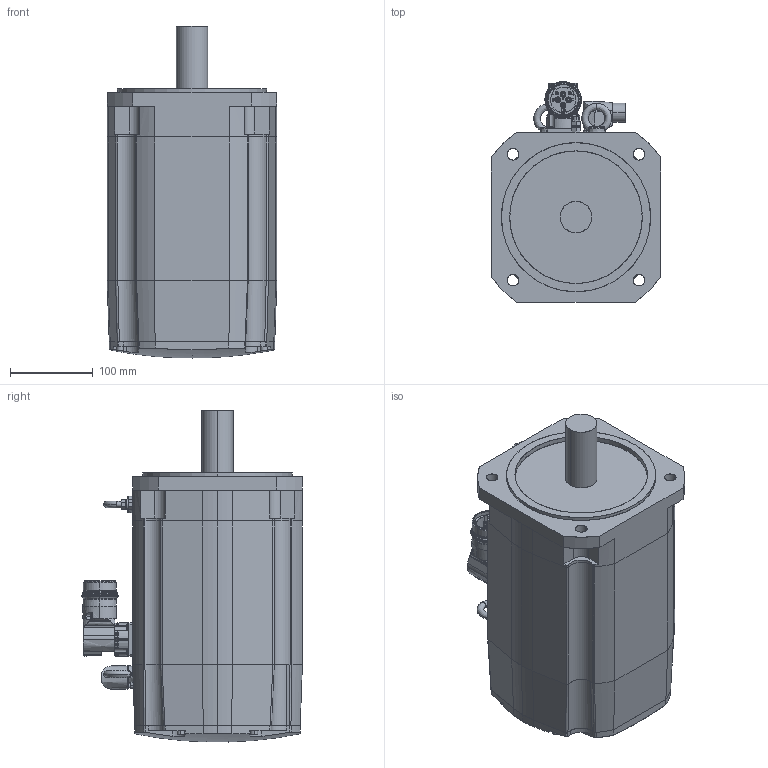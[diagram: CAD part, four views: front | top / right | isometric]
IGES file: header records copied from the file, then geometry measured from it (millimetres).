
Start section: SolidWorks IGES file using analytic representation for surfaces
Global section: file name: C:\PDM\SW-SAP\AA-IGES\SH32051x0xA2100.IGS; native system: SolidWorks 2010; preprocessor: SolidWorks 2010; author: SESA21951; date: 131129.140939; units: millimetre
Bounding box: 205 x 266.5 x 400.83 mm (x, y, z)
Surface area: 571618.5 mm2 (no closed solid volume)
Topology: 0 solids, 0 shells, 776 faces, 10342 edges, 10323 vertices
Faces by surface type: bspline 406, revolution 370
